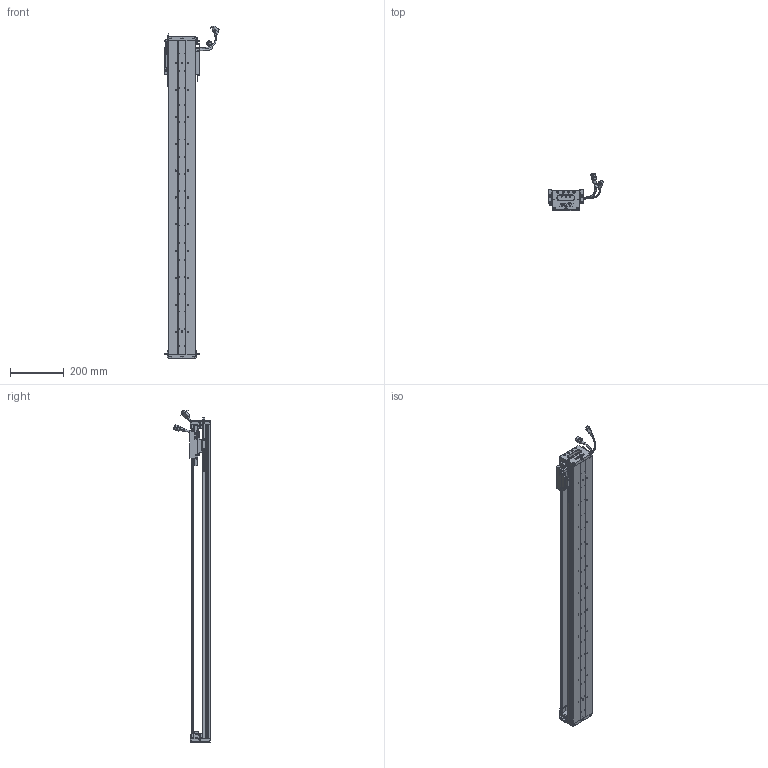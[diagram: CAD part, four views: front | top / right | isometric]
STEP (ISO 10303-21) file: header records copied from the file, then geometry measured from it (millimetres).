
FILE_DESCRIPTION (( 'STEP AP203' ), '1' );
FILE_NAME ('Z1-RY100D-1-L500-B-K.SLDASM_1000.step', '2021-05-17T01:41:03', ( '盈信电脑' ), ( '东莞市道滘镇水果街19号' ), 'SwSTEP 2.0', 'SolidWorks 2016', '' );
FILE_SCHEMA (( 'CONFIG_CONTROL_DESIGN' ));
Length unit declared in the file: millimetre
Products named in the file (36): LABEL; HARNESS-Part-2; 140蚥薯蝶輸; SCREW-M1.6; PSLH080_PSLF2; 140雄赽晤鎢ん堤盄; SCREW-M1.7-1; SCREW-M1.6-1; SCALE; SEAL-Part-1; SCALE-Part-1; Z1-RY100-L500詩湍90mm遵_1000; HARNESS-Part-1; Z-100詩湍傷裔啣; SEAL; HOLDER0; SCREW-M1.7; 080黍杅芛假蚾釱21遴; Z1-RY100铝滑块（21款）; 100-Z-臏賑輸盄裔(21遴); Z1-RY100D-1-L500-B-K.SLDASM_1000; SCREW-M1.6-3; LABEL-Part-1; COVER; SCALE-Part-2; PBU_SHEET; SHIELDPLATE; Z-RY100D詩湍奻揤裔; 覜茼ん672; Z-RY100D詩湍狟揤裔; COVER-Part-1; SCREW-M1.6-2; Z1-RY100D-500-倰第菁釱_1000; HARNESS; Z-RY100D覜茼んえ; 榋妏寠巭燃_暯_M2_2
Assembly tree (44 placements, depth 4):
  Z1-RY100D-1-L500-B-K.SLDASM_1000
    Z1-RY100D-500-倰第菁釱_1000
    Z1-RY100铝滑块（21款）
    PSLH080_PSLF2
      SCALE
        SCALE-Part-1
        SCALE-Part-2
      HARNESS
        HARNESS-Part-1
        HARNESS-Part-2
      LABEL
        LABEL-Part-1
      COVER
        COVER-Part-1
      SEAL
        SEAL-Part-1
      榋妏寠巭燃_暯_M2_2
      SHIELDPLATE
      SCREW-M1.7
      SCREW-M1.7-1
      PBU_SHEET
      SCREW-M1.6
      SCREW-M1.6-1
      SCREW-M1.6-2
      SCREW-M1.6-3
      HOLDER0
    080黍杅芛假蚾釱21遴
    Z-100詩湍傷裔啣  x2
    140蚥薯蝶輸  x2
    覜茼ん672  x4
    Z-RY100D覜茼んえ  x3
    100-Z-臏賑輸盄裔(21遴)
    140雄赽晤鎢ん堤盄
    Z1-RY100-L500詩湍90mm遵_1000
    Z-RY100D詩湍狟揤裔  x2
    Z-RY100D詩湍奻揤裔  x2
Bounding box: 205.84 x 136.11 x 1235.43 mm (x, y, z)
Volume: 2391677.8 mm3; surface area: 945148.6 mm2
Topology: 39 solids, 39 shells, 2614 faces, 6901 edges, 4384 vertices
Faces by surface type: plane 1176, cylinder 1106, cone 210, torus 69, bspline 53
Entity records: 68833 total; most frequent: CARTESIAN_POINT 14577, DIRECTION 10839, ORIENTED_EDGE 10234, EDGE_CURVE 5117, AXIS2_PLACEMENT_3D 3970, VERTEX_POINT 3292, LINE 2899, VECTOR 2899
